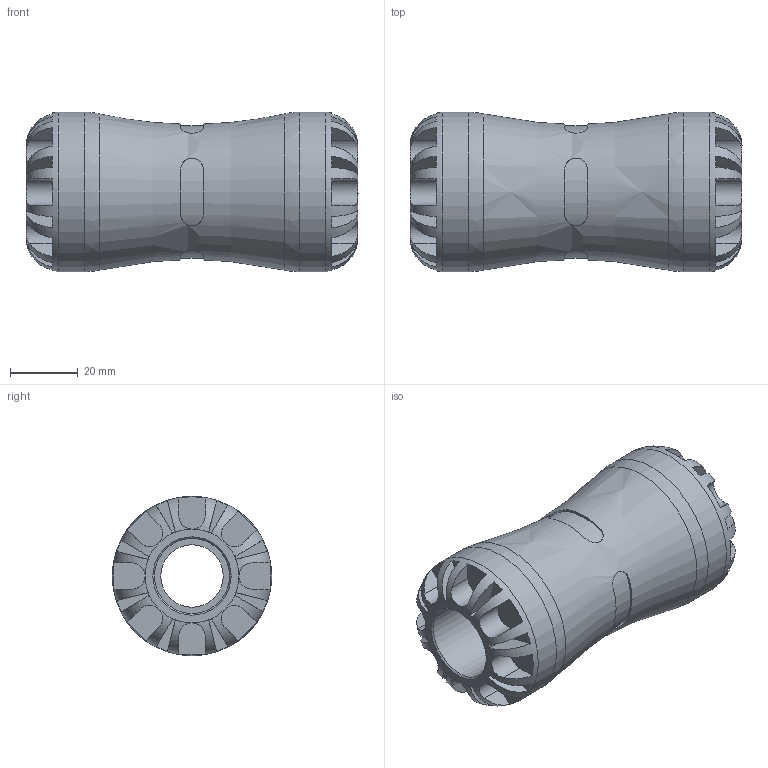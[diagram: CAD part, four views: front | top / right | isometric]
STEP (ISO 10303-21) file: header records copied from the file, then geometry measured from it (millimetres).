
FILE_DESCRIPTION(/* description */ ('PLASSON COUPLER 3/4''''CTS x 3/4''''CTS SERIES 1'),/* implementation_level */ '2;1');
FILE_NAME(/* name */ 'C:\Dropbox\KIMPROJECTS-Inventor 2019\99-16-3568-Processing Inch\ASTM S1 2021\1001Z\1001Z0007.ipt.stp',/* time_stamp */ '2021-09-02T12:00:04+03:00',/* author */ ('KIM'),/* organization */ (''),/* preprocessor_version */ 'ST-DEVELOPER v17.2',/* originating_system */ 'Autodesk Inventor 2019',/* authorisation */ '');
FILE_SCHEMA (('AUTOMOTIVE_DESIGN { 1 0 10303 214 3 1 1 }'));
Length unit declared in the file: inch
Products named in the file (1): 1001Z0007
Bounding box: 97.79 x 46.99 x 46.99 mm (x, y, z)
Volume: 99723 mm3; surface area: 25541.7 mm2
Topology: 1 solids, 1 shells, 164 faces, 431 edges, 274 vertices
Faces by surface type: plane 108, cylinder 49, torus 3, cone 2, bspline 2
Full cylindrical faces by diameter (mm): 18.417 x1, 22.1 x2, 46.99 x2
Entity records: 6681 total; most frequent: CARTESIAN_POINT 2502, ORIENTED_EDGE 862, DIRECTION 813, EDGE_CURVE 431, AXIS2_PLACEMENT_3D 331, VERTEX_POINT 274, EDGE_LOOP 171, CIRCLE 168
